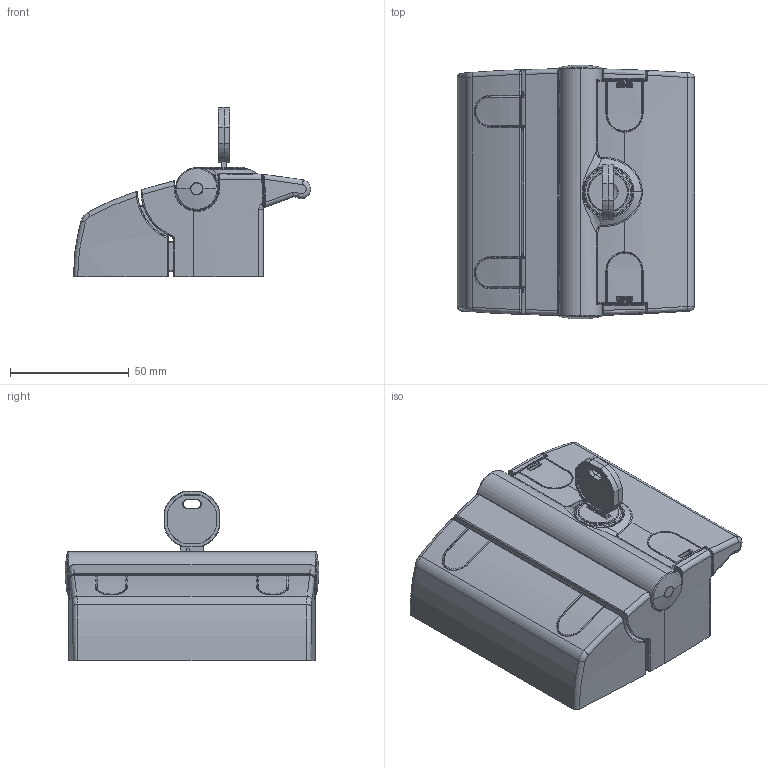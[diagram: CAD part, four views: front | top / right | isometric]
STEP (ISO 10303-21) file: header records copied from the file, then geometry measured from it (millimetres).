
FILE_DESCRIPTION(('STEP AP214'),'1');
FILE_NAME('C:/TPO v2/SharedFS/Outgoing/fath_0957404.stp','2016-05-17T12:21:11',('TraceParts'),('TraceParts S.A.'),'Spatial InterOp 3D',' ',' ');
FILE_SCHEMA(('automotive_design'));
Length unit declared in the file: millimetre
Products named in the file (15): 0957401|NAUO2#0957401-UBG-02_ZU ohne Elektronik gleichschliessend|NAUO7#0957401-UBG-04_mit Anschlag + Schraube|NAUO14#0957401-R14_0957401R14;M6 Gewindebohrung1; 0957401|NAUO2#0957401-UBG-02_ZU ohne Elektronik gleichschliessend|NAUO7#0957401-UBG-04_mit Anschlag + Schraube|NAUO15#0957401-R16;Fase1; 0957401|NAUO2#0957401-UBG-02_ZU ohne Elektronik gleichschliessend|NAUO8#0957401-UBG-03_ohne Elektronik|NAUO16#0957401-R08;Verrundung17; 0957401|NAUO2#0957401-UBG-02_ZU ohne Elektronik gleichschliessend|NAUO4#0957401-R10;Fillet7; 0957401|NAUO2#0957401-UBG-02_ZU ohne Elektronik gleichschliessend|NAUO5#0957401-R13;Verrundung10; 0957401|NAUO2#0957401-UBG-02_ZU ohne Elektronik gleichschliessend|NAUO6#0957401-R11;Fase1; 0957401|NAUO2#0957401-UBG-02_ZU ohne Elektronik gleichschliessend|NAUO9#0957401-R11;Fase1; 0957401|NAUO2#0957401-UBG-02_ZU ohne Elektronik gleichschliessend|NAUO10#0957401-R12;Mirror3; 0957401|NAUO2#0957401-UBG-02_ZU ohne Elektronik gleichschliessend|NAUO11#0957401r09_;Imported1; 0957401|NAUO2#0957401-UBG-02_ZU ohne Elektronik gleichschliessend|NAUO12#0957401-R13;Verrundung10; 0957401|NAUO2#0957401-UBG-02_ZU ohne Elektronik gleichschliessend|NAUO13#0957401-R20;Fillet4; 0957401|NAUO3#0957401-UBG-01_OHNE ELEKTRONIK|NAUO17#0957401-R02;Verrundung19; 0957401|NAUO3#0957401-UBG-01_OHNE ELEKTRONIK|NAUO18#0957401-R01_0957401-R29;Fillet2; 0957401|NAUO3#0957401-UBG-01_OHNE ELEKTRONIK|NAUO19#0957401-R02;Verrundung19; 0957401|NAUO1#095401r21_095401r21;Extrude7
Bounding box: 99.99 x 106.85 x 71.33 mm (x, y, z)
Volume: 130439.7 mm3; surface area: 105126.5 mm2
Topology: 15 solids, 15 shells, 3293 faces, 8190 edges, 4750 vertices
Faces by surface type: cylinder 1035, plane 945, bspline 703, torus 392, sphere 126, cone 92
Entity records: 151780 total; most frequent: CARTESIAN_POINT 52736, ORIENTED_EDGE 16012, DIRECTION 14584, EDGE_CURVE 8006, AXIS2_PLACEMENT_3D 5621, VERTEX_POINT 4750, EDGE_LOOP 3344, LINE 3342
